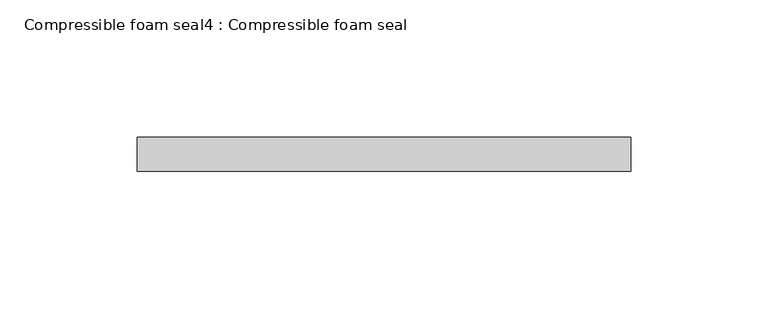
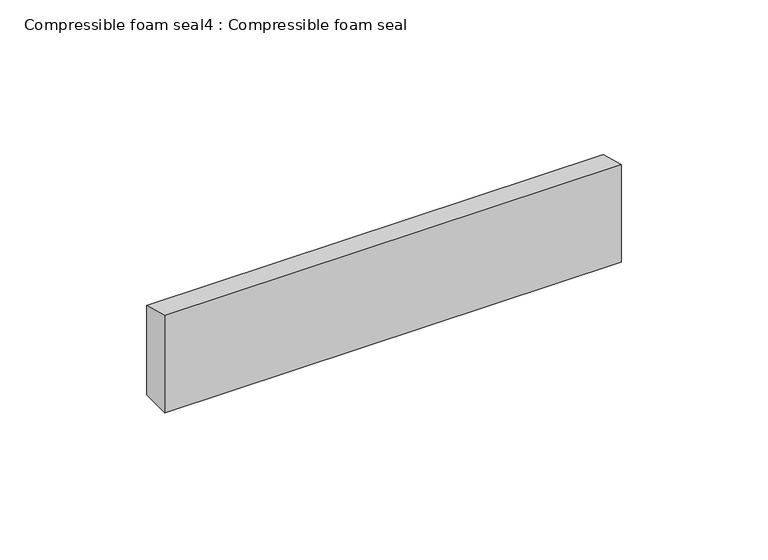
"""IFC4 building model written with IfcOpenShell, lengths in millimetres: proxy geometry, Compressible foam seal4 : Compressible foam seal."""

from ifc_helpers import new_model, si_unit, frame, origin, place, context, project, spatial, polyline, outline, extrude, source, transform, mapped, element, save


def compressible_foam_seal4_compressible_foam_seal_b4c7230d(model_context):
    return source(origin(), model_context, "Body", "SweptSolid", [
        extrude(outline(polyline([(-23644.7603415, -343.5448265), (-23632.3591805, -346.8677076), (-23632.3591805, -384.0410003), (-23644.7603415, -384.0410003), (-23644.7603415, -343.5448265)])), frame((13402.5697456, 0.0, 0.0), z_axis=(1.0, 0.0, 0.0), x_axis=(0.0, 1.0, 0.0)), (0.0, 0.0, 1.0), 179.5239223),
    ])


if __name__ == "__main__":
    model = new_model("IFC4")
    model_context = context("Model", 3, world=origin())
    ifc_project = project(units=[si_unit("LENGTHUNIT", "METRE", prefix="MILLI")], contexts=[model_context])
    site = spatial("IfcSite", under=ifc_project)
    building = spatial("IfcBuilding", under=site)
    placement = place(None, origin())
    compressible_foam_seal4_compressible_foam_seal_shape = compressible_foam_seal4_compressible_foam_seal_b4c7230d(model_context)
    element("IfcBuildingElementProxy", 1, Name="Compressible foam seal4 : Compressible foam seal", ObjectType="Compressible foam seal4 : Compressible foam seal", at=placement, inside=building, context=model_context, shape_type="MappedRepresentation", body=[
        mapped(compressible_foam_seal4_compressible_foam_seal_shape, transform((0.0, 0.0, 0.0), x_axis=(1.0, 0.0, 0.0), y_axis=(0.0, 1.0, 0.0), z_axis=(0.0, 0.0, 1.0))),
    ])
    save(model, "model.ifc")
